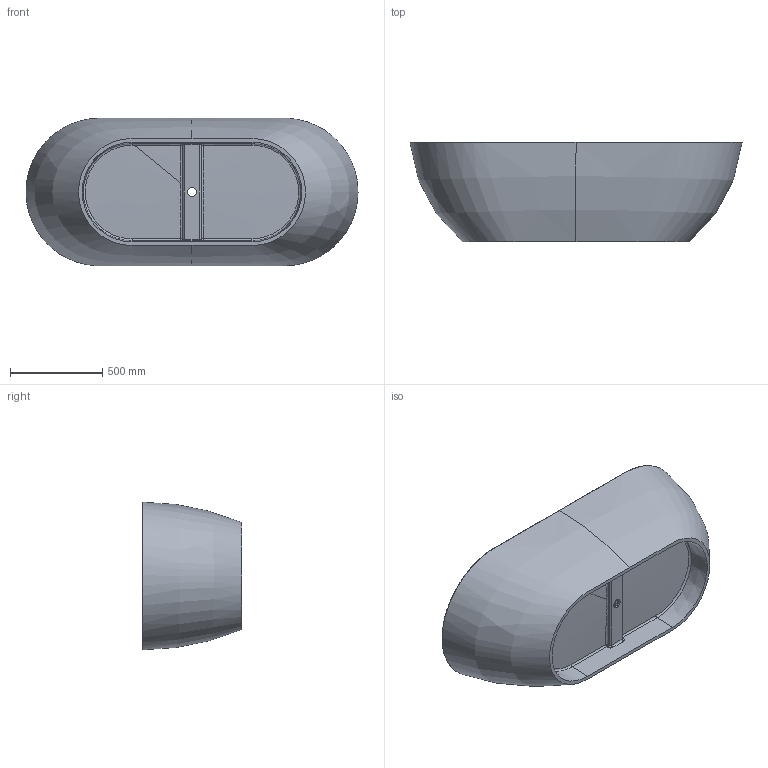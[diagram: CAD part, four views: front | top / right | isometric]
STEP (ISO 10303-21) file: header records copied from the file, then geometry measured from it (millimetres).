
FILE_DESCRIPTION (( 'STEP AP203' ), '1' );
FILE_NAME ('TC-S17B.STEP', '2019-05-04T09:19:42', ( '旮僅薊襠http://www.deepbbs.org' ), ( 'http://www.deepbbs.org' ), 'SwSTEP 2.0', 'SolidWorks 2016', '' );
FILE_SCHEMA (( 'CONFIG_CONTROL_DESIGN' ));
Length unit declared in the file: millimetre
Products named in the file (1): TC-S17B
Bounding box: 1799.65 x 540 x 800 mm (x, y, z)
Volume: 101152457.4 mm3; surface area: 5858320 mm2
Topology: 1 solids, 1 shells, 89 faces, 229 edges, 142 vertices
Faces by surface type: bspline 44, plane 19, cylinder 18, cone 4, sphere 4
Entity records: 11042 total; most frequent: CARTESIAN_POINT 9128, ORIENTED_EDGE 458, DIRECTION 283, EDGE_CURVE 229, VERTEX_POINT 142, AXIS2_PLACEMENT_3D 110, EDGE_LOOP 93, ADVANCED_FACE 89
